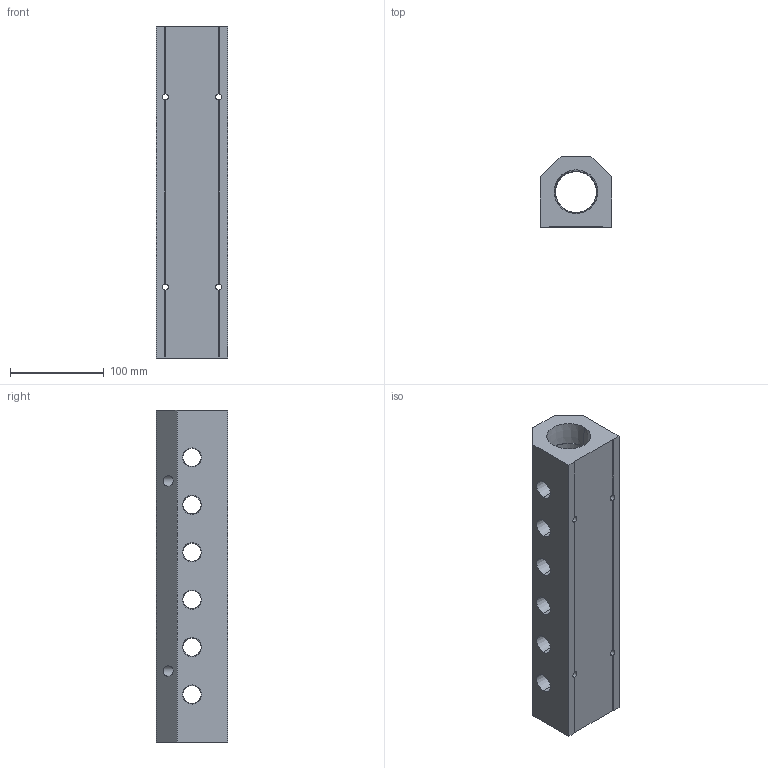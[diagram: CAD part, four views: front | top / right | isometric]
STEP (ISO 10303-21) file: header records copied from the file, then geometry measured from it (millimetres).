
FILE_DESCRIPTION (( 'STEP AP214' ), '1' );
FILE_NAME ('ALM6ACE-N8N24-355B.step', '2022-02-07T09:29:19', ( '' ), ( '' ), 'SwSTEP 2.0', 'SolidWorks 2020', '' );
FILE_SCHEMA (( 'AUTOMOTIVE_DESIGN' ));
Length unit declared in the file: millimetre
Products named in the file (1): ALM6ACE-N8N24-355B
Bounding box: 76.2 x 76.2 x 355 mm (x, y, z)
Volume: 1226226.5 mm3; surface area: 169233 mm2
Topology: 1 solids, 1 shells, 354 faces, 958 edges, 628 vertices
Faces by surface type: plane 213, bspline 83, cone 40, cylinder 18
Entity records: 20943 total; most frequent: CARTESIAN_POINT 9186, ORIENTED_EDGE 1916, DIRECTION 1356, EDGE_CURVE 958, VECTOR 668, LINE 668, VERTEX_POINT 628, EDGE_LOOP 422
